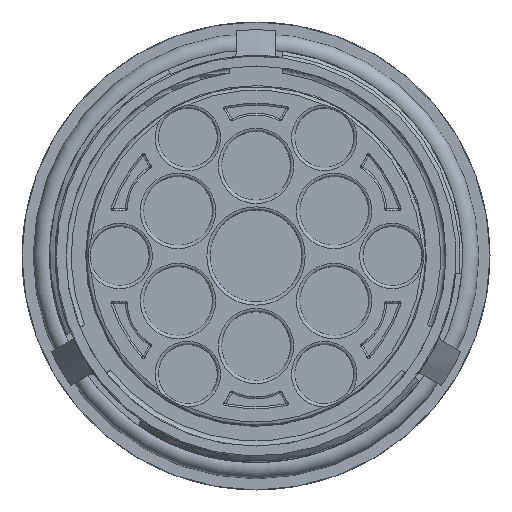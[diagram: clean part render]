
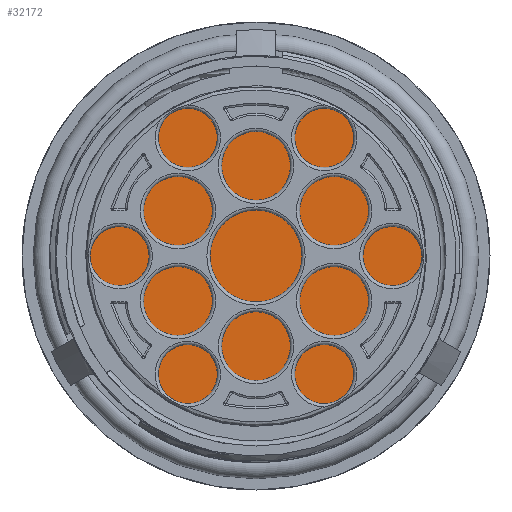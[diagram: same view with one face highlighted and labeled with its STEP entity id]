
A CAD part, front view. The second image highlights one B-rep face of the part: STEP entity #32172.
In plain terms, the highlighted planar face has unit normal (0, -1, 0).
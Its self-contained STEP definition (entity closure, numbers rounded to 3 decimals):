
#859=PLANE('',#35128);
#1914=FACE_BOUND('',#9077,.T.);
#1915=FACE_BOUND('',#9078,.T.);
#1916=FACE_BOUND('',#9079,.T.);
#6943=FACE_OUTER_BOUND('',#9076,.T.);
#9076=EDGE_LOOP('',(#25432));
#9077=EDGE_LOOP('',(#25433));
#9078=EDGE_LOOP('',(#25434));
#9079=EDGE_LOOP('',(#25435));
#12637=CIRCLE('',#35116,1.9);
#12639=CIRCLE('',#35119,1.9);
#12641=CIRCLE('',#35122,1.9);
#12644=CIRCLE('',#35126,29.5);
#14753=VERTEX_POINT('',#57900);
#14755=VERTEX_POINT('',#57905);
#14757=VERTEX_POINT('',#57910);
#14760=VERTEX_POINT('',#57917);
#18609=EDGE_CURVE('',#14753,#14753,#12637,.T.);
#18611=EDGE_CURVE('',#14755,#14755,#12639,.T.);
#18613=EDGE_CURVE('',#14757,#14757,#12641,.T.);
#18616=EDGE_CURVE('',#14760,#14760,#12644,.T.);
#25432=ORIENTED_EDGE('',*,*,#18616,.F.);
#25433=ORIENTED_EDGE('',*,*,#18609,.T.);
#25434=ORIENTED_EDGE('',*,*,#18611,.T.);
#25435=ORIENTED_EDGE('',*,*,#18613,.T.);
#32172=ADVANCED_FACE('',(#6943,#1914,#1915,#1916),#859,.T.);
#35116=AXIS2_PLACEMENT_3D('',#57901,#40533,#40534);
#35119=AXIS2_PLACEMENT_3D('',#57906,#40539,#40540);
#35122=AXIS2_PLACEMENT_3D('',#57911,#40545,#40546);
#35126=AXIS2_PLACEMENT_3D('',#57918,#40553,#40554);
#35128=AXIS2_PLACEMENT_3D('',#57920,#40557,#40558);
#40533=DIRECTION('center_axis',(0.,1.,0.));
#40534=DIRECTION('ref_axis',(-1.,0.,0.));
#40539=DIRECTION('center_axis',(0.,1.,0.));
#40540=DIRECTION('ref_axis',(-1.,0.,0.));
#40545=DIRECTION('center_axis',(0.,1.,0.));
#40546=DIRECTION('ref_axis',(-1.,0.,0.));
#40553=DIRECTION('center_axis',(0.,1.,0.));
#40554=DIRECTION('ref_axis',(-1.,0.,0.));
#40557=DIRECTION('center_axis',(0.,-1.,0.));
#40558=DIRECTION('ref_axis',(0.,0.,-1.));
#57900=CARTESIAN_POINT('',(23.63,-1.2,-9.132));
#57901=CARTESIAN_POINT('Origin',(21.73,-1.2,-9.132));
#57905=CARTESIAN_POINT('',(-19.83,-1.2,9.132));
#57906=CARTESIAN_POINT('Origin',(-21.73,-1.2,9.132));
#57910=CARTESIAN_POINT('',(20.831,-1.2,13.754));
#57911=CARTESIAN_POINT('Origin',(18.931,-1.2,13.754));
#57917=CARTESIAN_POINT('',(-29.5,-1.2,0.));
#57918=CARTESIAN_POINT('Origin',(0.,-1.2,0.));
#57920=CARTESIAN_POINT('Origin',(-14.75,-1.2,0.));
